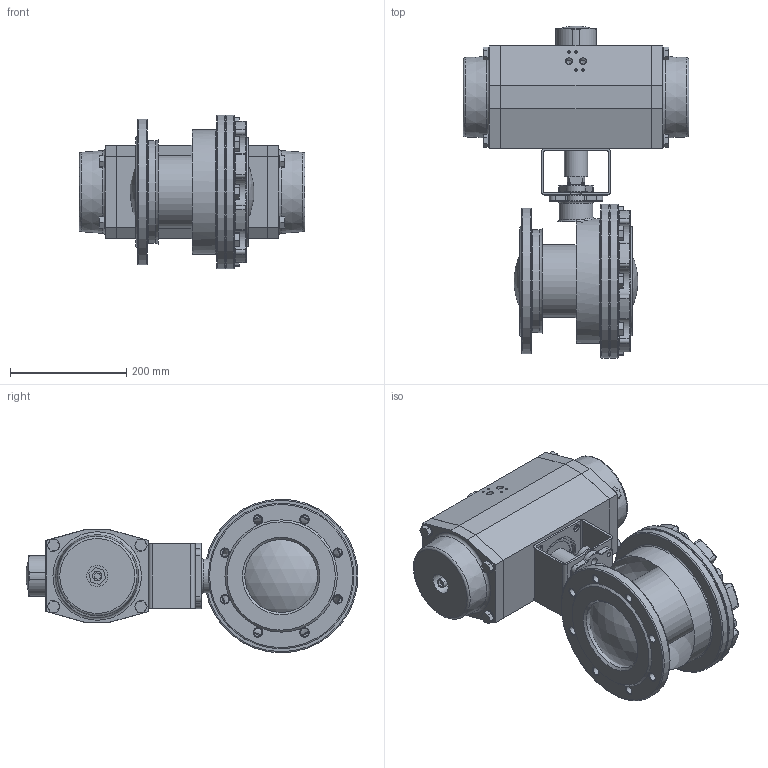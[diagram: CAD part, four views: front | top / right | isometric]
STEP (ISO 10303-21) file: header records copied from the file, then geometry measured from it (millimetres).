
FILE_DESCRIPTION (( 'STEP AP214' ), '1' );
FILE_NAME ('S15F DN125 + AP5.5.STEP', '2025-08-13T09:07:17', ( '' ), ( '' ), 'SwSTEP 2.0', 'SolidWorks 2021', '' );
FILE_SCHEMA (( 'AUTOMOTIVE_DESIGN' ));
Length unit declared in the file: millimetre
Products named in the file (5): YA2720D4069K80; S15F DN125 + AP5.5; S15F KK DN125 PN16; AP5.5_Default<As Machined>; YB12080F12F10-4-S15
Assembly tree (4 placements, depth 2):
  S15F DN125 + AP5.5
    S15F KK DN125 PN16
    YB12080F12F10-4-S15
    AP5.5_Default<As Machined>
    YA2720D4069K80
Bounding box: 388 x 570.34 x 264 mm (x, y, z)
Volume: 9379296.2 mm3; surface area: 871316.8 mm2
Topology: 15 solids, 15 shells, 692 faces, 1669 edges, 1025 vertices
Faces by surface type: plane 324, cylinder 180, torus 120, cone 48, bspline 17, sphere 3
Full cylindrical faces by diameter (mm): 4.2 x12, 6.8 x1, 8.5 x4, 10.2 x4, 11 x4, 11.445 x2, 13 x4, 14 x18, 16 x2, 17 x2, 20 x8, 36 x2, 40 x1, 48 x1, 58 x1, 66 x1, 69 x1, 75 x1, 85 x2, 125 x1, 176.508 x1, 187 x1, 214 x1, 250 x1, 263 x1, 264 x2
Entity records: 21381 total; most frequent: CARTESIAN_POINT 4191, DIRECTION 3447, ORIENTED_EDGE 2884, EDGE_CURVE 1442, AXIS2_PLACEMENT_3D 1346, VERTEX_POINT 960, EDGE_LOOP 926, FACE_OUTER_BOUND 788
